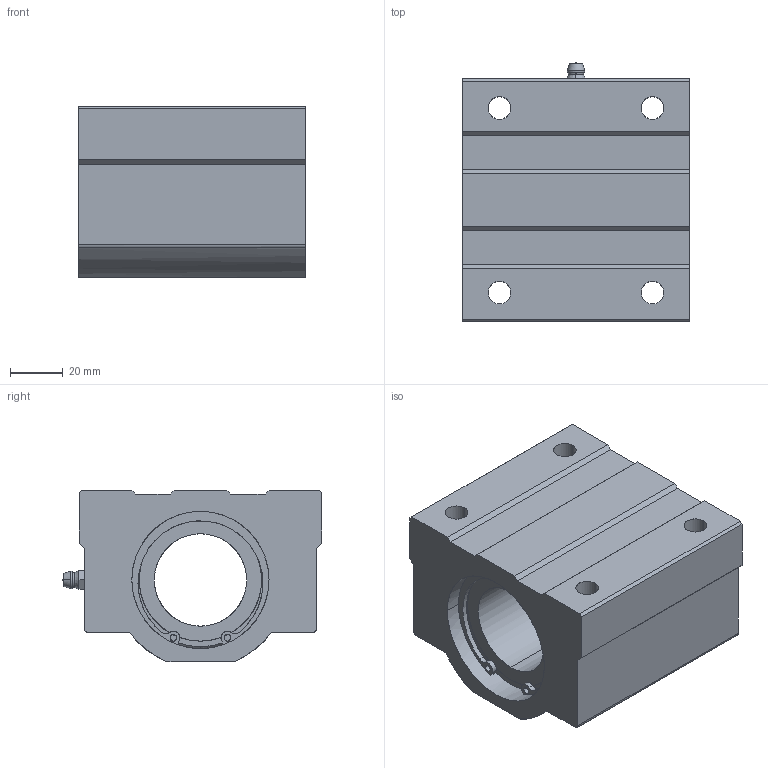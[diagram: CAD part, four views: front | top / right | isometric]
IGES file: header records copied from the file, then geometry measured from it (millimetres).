
Global section: file name: No Iges File Name specified; native system: AutoDesk Inventor R10; preprocessor: AutoDesk Inventor Iges Exporter R10; author: No Author specified; organization: No Organization specified; date: 20101214.143623; units: millimetre
Bounding box: 86 x 98.4 x 65 mm (x, y, z)
Surface area: 53719.5 mm2 (no closed solid volume)
Topology: 0 solids, 0 shells, 134 faces, 926 edges, 922 vertices
Faces by surface type: bspline 134
